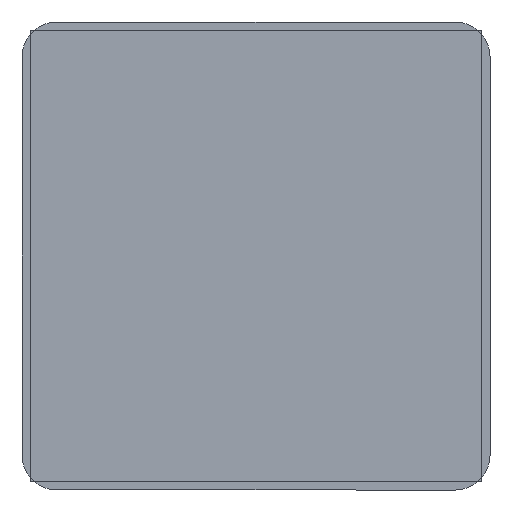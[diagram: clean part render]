
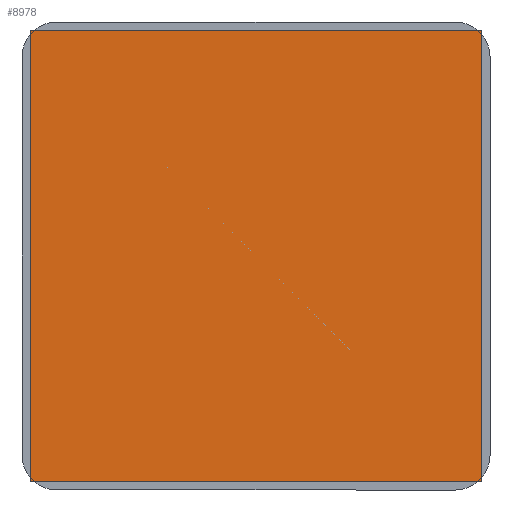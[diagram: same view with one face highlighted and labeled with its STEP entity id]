
A CAD part, front view. The second image highlights one B-rep face of the part: STEP entity #8978.
In plain terms, the highlighted planar face has unit normal (0, -1, 0).
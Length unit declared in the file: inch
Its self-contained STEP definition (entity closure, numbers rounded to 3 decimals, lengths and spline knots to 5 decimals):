
#16 = DIRECTION ( 'NONE',  ( 1., 0., 0. ) ) ;
#50 = VERTEX_POINT ( 'NONE', #4282 ) ;
#184 = LINE ( 'NONE', #333, #5275 ) ;
#308 = VERTEX_POINT ( 'NONE', #4614 ) ;
#332 = ORIENTED_EDGE ( 'NONE', *, *, #2669, .F. ) ;
#333 = CARTESIAN_POINT ( 'NONE',  ( -0.84646, -0.005, -0.84646 ) ) ;
#484 = EDGE_CURVE ( 'NONE', #50, #8008, #1812, .T. ) ;
#757 = AXIS2_PLACEMENT_3D ( 'NONE', #1058, #8101, #2609 ) ;
#886 = DIRECTION ( 'NONE',  ( 0., 0., -1. ) ) ;
#1009 = FACE_OUTER_BOUND ( 'NONE', #5954, .T. ) ;
#1058 = CARTESIAN_POINT ( 'NONE',  ( -0.84646, -0.005, 0.84646 ) ) ;
#1812 = LINE ( 'NONE', #2590, #7113 ) ;
#2301 = VECTOR ( 'NONE', #16, 39.37008 ) ;
#2449 = ORIENTED_EDGE ( 'NONE', *, *, #484, .F. ) ;
#2460 = CARTESIAN_POINT ( 'NONE',  ( -0.84646, -0.005, 0.84646 ) ) ;
#2590 = CARTESIAN_POINT ( 'NONE',  ( 0.84646, -0.005, -0.84646 ) ) ;
#2609 = DIRECTION ( 'NONE',  ( 0., 0., 1. ) ) ;
#2669 = EDGE_CURVE ( 'NONE', #8008, #3041, #6276, .T. ) ;
#3041 = VERTEX_POINT ( 'NONE', #8983 ) ;
#3095 = LINE ( 'NONE', #2460, #2301 ) ;
#3468 = ORIENTED_EDGE ( 'NONE', *, *, #8317, .F. ) ;
#4282 = CARTESIAN_POINT ( 'NONE',  ( 0.84646, -0.005, 0.84646 ) ) ;
#4614 = CARTESIAN_POINT ( 'NONE',  ( -0.84646, -0.005, 0.84646 ) ) ;
#5275 = VECTOR ( 'NONE', #8885, 39.37008 ) ;
#5385 = VECTOR ( 'NONE', #5681, 39.37008 ) ;
#5681 = DIRECTION ( 'NONE',  ( -1., 0., 0. ) ) ;
#5954 = EDGE_LOOP ( 'NONE', ( #7466, #332, #2449, #3468 ) ) ;
#6074 = EDGE_CURVE ( 'NONE', #3041, #308, #184, .T. ) ;
#6276 = LINE ( 'NONE', #8976, #5385 ) ;
#7113 = VECTOR ( 'NONE', #886, 39.37008 ) ;
#7466 = ORIENTED_EDGE ( 'NONE', *, *, #6074, .F. ) ;
#8008 = VERTEX_POINT ( 'NONE', #9850 ) ;
#8101 = DIRECTION ( 'NONE',  ( 0., 1., 0. ) ) ;
#8317 = EDGE_CURVE ( 'NONE', #308, #50, #3095, .T. ) ;
#8885 = DIRECTION ( 'NONE',  ( 0., 0., 1. ) ) ;
#8976 = CARTESIAN_POINT ( 'NONE',  ( -0.84646, -0.005, -0.84646 ) ) ;
#8978 = ADVANCED_FACE ( 'NONE', ( #1009 ), #9635, .F. ) ;
#8983 = CARTESIAN_POINT ( 'NONE',  ( -0.84646, -0.005, -0.84646 ) ) ;
#9635 = PLANE ( 'NONE',  #757 ) ;
#9850 = CARTESIAN_POINT ( 'NONE',  ( 0.84646, -0.005, -0.84646 ) ) ;
